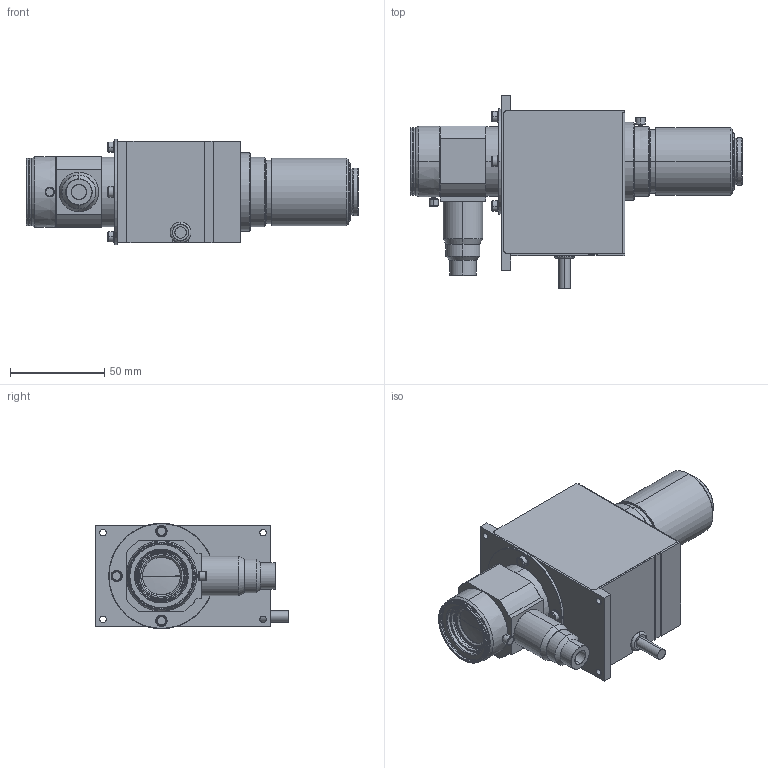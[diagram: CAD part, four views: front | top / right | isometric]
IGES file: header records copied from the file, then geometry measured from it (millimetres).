
Start section: SolidWorks IGES file using analytic representation for surfaces
Global section: file name: C:\Users\tsuji_vst\Documents\【図面】\_3D\00 VST\VSZ\Z0530CO-MR\VSZ-0530CO-MR.IGS; native system: SolidWorks 2017; preprocessor: SolidWorks 2017; author: tsuji_vst; date: 170510.120232; units: millimetre
Bounding box: 176.29 x 102.5 x 56 mm (x, y, z)
Surface area: 108228.5 mm2 (no closed solid volume)
Topology: 0 solids, 0 shells, 427 faces, 8116 edges, 8114 vertices
Faces by surface type: revolution 283, bspline 144
